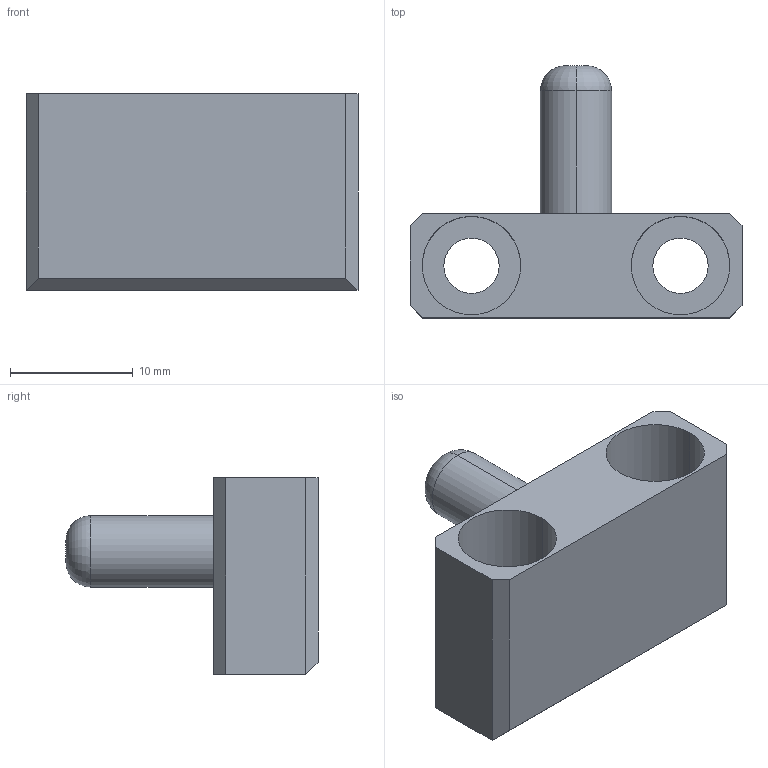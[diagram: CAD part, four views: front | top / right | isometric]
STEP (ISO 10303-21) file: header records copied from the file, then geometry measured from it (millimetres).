
FILE_DESCRIPTION (( 'STEP AP214' ), '1' );
FILE_NAME ('GZ26.04_V1定位座.STEP', '2021-03-31T05:22:25', ( '微软中国' ), ( 'Microsoft' ), 'SwSTEP 2.0', 'SolidWorks 2017', '' );
FILE_SCHEMA (( 'AUTOMOTIVE_DESIGN' ));
Length unit declared in the file: millimetre
Products named in the file (1): GZ26.04_V1隅弇釱
Bounding box: 27 x 20.5 x 16 mm (x, y, z)
Volume: 2941 mm3; surface area: 2281.8 mm2
Topology: 1 solids, 1 shells, 26 faces, 59 edges, 38 vertices
Faces by surface type: plane 14, cylinder 10, torus 2
Entity records: 777 total; most frequent: DIRECTION 137, CARTESIAN_POINT 124, ORIENTED_EDGE 118, EDGE_CURVE 59, AXIS2_PLACEMENT_3D 51, VERTEX_POINT 38, LINE 35, VECTOR 35
